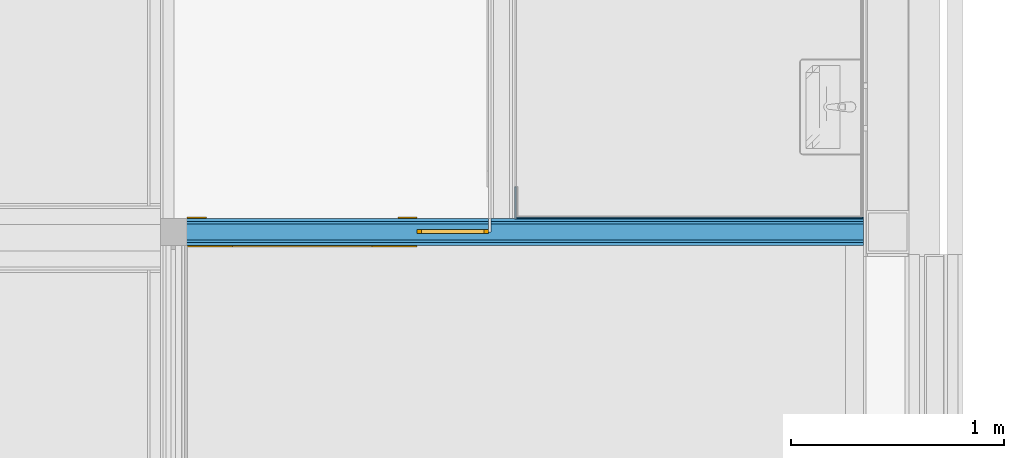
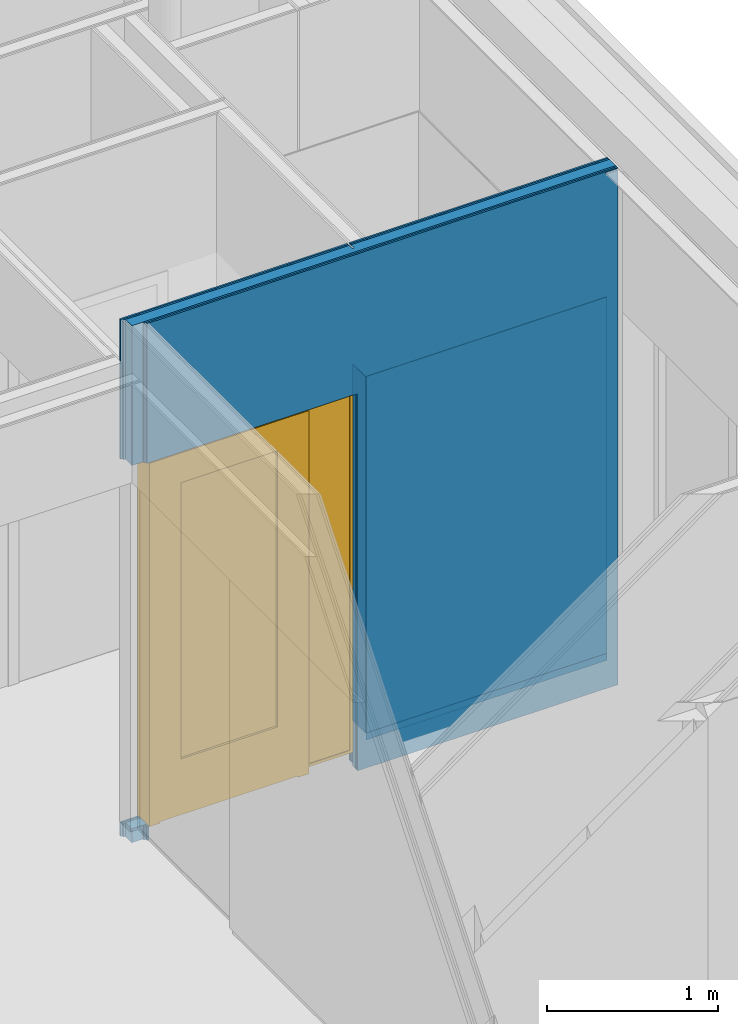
# One storey, part 71 of 165: 8 building element parts, 2 doors, 2 openings, 3 elements without a shape of their own.
"""IFC2X3 building model written with IfcOpenShell, lengths in millimetres."""

from ifc_helpers import new_model, entity, si_unit, converted_unit, derived_unit, money_unit, direction, frame, origin_with_axes, place, context, subcontext, project, spatial, open_shell, faceted_brep, surface_model, material, type_object, element, fill, aggregate, save


model = new_model("IFC2X3")

# Units and contexts
model_context = context("Model", 3, precision=0.01, world=origin_with_axes(), true_north=direction((0.0, 1.0)))
body_context = subcontext(model_context, "Body", "Model", "MODEL_VIEW")
ifc_project = project(units=[si_unit("LENGTHUNIT", "METRE", prefix="MILLI"), si_unit("AREAUNIT", "SQUARE_METRE"), si_unit("VOLUMEUNIT", "CUBIC_METRE"), converted_unit("PLANEANGLEUNIT", "DEGREE", entity("IfcPlaneAngleMeasure", 0.0174532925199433), si_unit("PLANEANGLEUNIT", "RADIAN"), dimensions=[0, 0, 0, 0, 0, 0, 0]), money_unit("EUR"), converted_unit("TIMEUNIT", "Year", entity("IfcTimeMeasure", 31556926.0), si_unit("TIMEUNIT", "SECOND"), dimensions=[0, 0, 1, 0, 0, 0, 0]), si_unit("MASSUNIT", "GRAM", prefix="KILO"), si_unit("THERMODYNAMICTEMPERATUREUNIT", "DEGREE_CELSIUS"), si_unit("LUMINOUSINTENSITYUNIT", "LUMEN"), si_unit("ENERGYUNIT", "JOULE", prefix="MEGA"), derived_unit("THERMALCONDUCTANCEUNIT", [(si_unit("POWERUNIT", "WATT"), 1), (si_unit("LENGTHUNIT", "METRE"), -1), (si_unit("THERMODYNAMICTEMPERATUREUNIT", "KELVIN"), -1)]), derived_unit("SPECIFICHEATCAPACITYUNIT", [(si_unit("ENERGYUNIT", "JOULE"), 1), (si_unit("MASSUNIT", "GRAM", prefix="KILO"), -1), (si_unit("THERMODYNAMICTEMPERATUREUNIT", "KELVIN"), -1)]), derived_unit("MASSDENSITYUNIT", [(si_unit("MASSUNIT", "GRAM", prefix="KILO"), 1), (si_unit("VOLUMEUNIT", "CUBIC_METRE"), -1)])], contexts=[model_context])

# Site, building, storey
site_placement = place(None, origin_with_axes())
site = spatial("IfcSite", under=ifc_project, at=site_placement, Name="Site", CompositionType="ELEMENT")
building_placement = place(site_placement, origin_with_axes())
building = spatial("IfcBuilding", under=site, at=building_placement, Name="Naam gebouw", CompositionType="ELEMENT")
storey_placement = place(building_placement, origin_with_axes())
storey = spatial("IfcBuildingStorey", under=building, at=storey_placement, Name="Begane grond", CompositionType="ELEMENT", Elevation=0.0)

# Door
door_style_1 = type_object("IfcDoorStyle", Name="R1 26", ConstructionType="NOTDEFINED", OperationType="SINGLE_SWING_RIGHT", ParameterTakesPrecedence=False, Sizeable=False)
proxy_1_placement = place(storey_placement, frame((26386.00000000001, 10810.00011055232, -100.0), z_axis=(0.0, 0.0, 1.0), x_axis=(1.0, 0.0, 0.0)))
opening_1_placement = place(proxy_1_placement, frame((1371.999976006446, 0.0, 100.0), z_axis=(0.0, 0.0, 1.0), x_axis=(1.0, 0.0, 0.0)))
door_1_placement = place(opening_1_placement, frame((166.9999760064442, 0.0, 0.0), z_axis=(0.0, 0.0, 1.0), x_axis=(-1.0, 0.0, 0.0)))
door_1 = element("IfcDoor", 1, at=door_1_placement, inside=storey, type_object=door_style_1, Name="_B.14", ObjectType="DOOR", OverallHeight=2600.0, OverallWidth=334.0, context=body_context, shape_type="SurfaceModel", body=[
    faceted_brep([(0.0, -12.49999999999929, 2580.0), (19.99999999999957, -12.49999999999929, 2580.0), (19.99999999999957, 7.500000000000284, 2580.0), (0.0, 7.500000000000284, 2580.0), (19.99999999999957, -12.49999999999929, 20.00000000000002), (0.0, -12.49999999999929, 20.00000000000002), (19.99999999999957, 7.500000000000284, 20.00000000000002), (0.0, 7.500000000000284, 20.00000000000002)], [[[0, 1, 2, 3]], [[4, 1, 0, 5]], [[1, 4, 6, 2]], [[3, 2, 6, 7]], [[5, 0, 3, 7]], [[4, 5, 7, 6]]]),
    faceted_brep([(0.0, -12.49999999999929, 20.00000000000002), (19.99999999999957, -12.49999999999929, 20.00000000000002), (19.99999999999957, 7.500000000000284, 20.00000000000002), (0.0, 7.500000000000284, 20.00000000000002), (313.9999520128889, -12.49999999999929, 20.00000000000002), (0.0, -12.49999999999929, 0.0), (333.9999520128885, -12.49999999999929, 0.0), (333.9999520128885, -12.49999999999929, 20.00000000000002), (313.9999520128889, 7.500000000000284, 20.00000000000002), (333.9999520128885, 7.500000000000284, 20.00000000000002), (333.9999520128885, 7.500000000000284, 0.0), (0.0, 7.500000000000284, 0.0)], [[[0, 1, 2, 3]], [[4, 1, 0, 5, 6, 7]], [[1, 4, 8, 2]], [[3, 2, 8, 9, 10, 11]], [[5, 0, 3, 11]], [[6, 5, 11, 10]], [[7, 6, 10, 9]], [[4, 7, 9, 8]]]),
    faceted_brep([(333.9999520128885, -12.50000000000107, 2580.0), (313.9999520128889, -12.50000000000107, 2580.0), (313.9999520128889, 7.500000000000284, 2580.0), (333.9999520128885, 7.500000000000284, 2580.0), (19.99999999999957, -12.49999999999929, 2580.0), (333.9999520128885, -12.50000000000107, 2600.0), (0.0, -12.49999999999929, 2600.0), (0.0, -12.49999999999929, 2580.0), (19.99999999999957, 7.500000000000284, 2580.0), (0.0, 7.500000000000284, 2580.0), (0.0, 7.500000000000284, 2600.0), (333.9999520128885, 7.500000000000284, 2600.0)], [[[0, 1, 2, 3]], [[4, 1, 0, 5, 6, 7]], [[1, 4, 8, 2]], [[3, 2, 8, 9, 10, 11]], [[5, 0, 3, 11]], [[6, 5, 11, 10]], [[7, 6, 10, 9]], [[4, 7, 9, 8]]]),
    faceted_brep([(313.9999520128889, -12.49999999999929, 20.0), (313.9999520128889, 7.500000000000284, 20.0), (333.9999520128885, 7.500000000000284, 20.0), (333.9999520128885, -12.49999999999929, 20.0), (313.9999520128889, -12.50000000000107, 2580.0), (313.9999520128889, 7.500000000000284, 2580.0), (333.9999520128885, 7.500000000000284, 2580.0), (333.9999520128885, -12.50000000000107, 2580.0)], [[[0, 1, 2, 3]], [[4, 5, 1, 0]], [[1, 5, 6, 2]], [[3, 2, 6, 7]], [[0, 3, 7, 4]], [[7, 6, 5, 4]]]),
    surface_model("IfcShellBasedSurfaceModel", [(19.99999999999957, -7.500000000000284, 20.0), (313.9999520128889, -7.500000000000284, 20.0), (313.9999520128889, -7.500000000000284, 2580.0), (19.99999999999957, -7.500000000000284, 2580.0)], [open_shell([[[0, 1, 2, 3]]])]),
    surface_model("IfcShellBasedSurfaceModel", [(19.99999999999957, 2.499999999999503, 20.0), (19.99999999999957, 2.499999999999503, 2580.0), (313.9999520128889, 2.499999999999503, 2580.0), (313.9999520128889, 2.499999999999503, 20.0)], [open_shell([[[0, 1, 2, 3]]])]),
])

door_style_2 = type_object("IfcDoorStyle", Name="D1 26", ConstructionType="NOTDEFINED", OperationType="SINGLE_SWING_RIGHT", ParameterTakesPrecedence=False, Sizeable=False)
opening_2_placement = place(proxy_1_placement, frame((664.9999999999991, 0.0, 100.0), z_axis=(0.0, 0.0, 1.0), x_axis=(1.0, 0.0, 0.0)))
door_2_placement = place(opening_2_placement, frame((449.9999999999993, 0.0, 0.0), z_axis=(0.0, 0.0, 1.0), x_axis=(-1.0, 0.0, 0.0)))
door_2 = element("IfcDoor", 2, at=door_2_placement, inside=storey, type_object=door_style_2, Name="_01.02", ObjectType="DOOR", OverallHeight=2600.0, OverallWidth=1080.0, context=body_context, shape_type="SurfaceModel", body=[
    faceted_brep([(916.9999999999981, 69.49999999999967, 2510.0), (916.9999999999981, 29.49999999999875, 2510.0), (899.9999999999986, 29.49999999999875, 2510.0), (899.9999999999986, -69.49999999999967, 2510.0), (989.9999999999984, -69.49999999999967, 2510.0), (989.9999999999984, 69.49999999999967, 2510.0), (916.9999999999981, 29.49999999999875, 0.0), (916.9999999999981, 69.49999999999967, 0.0), (899.9999999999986, 29.49999999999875, 0.0), (899.9999999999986, -69.49999999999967, 0.0), (989.9999999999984, -69.49999999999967, 0.0), (989.9999999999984, 69.49999999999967, 0.0)], [[[0, 1, 2, 3, 4, 5]], [[6, 1, 0, 7]], [[8, 2, 1, 6]], [[3, 2, 8, 9]], [[10, 4, 3, 9]], [[11, 5, 4, 10]], [[11, 7, 0, 5]], [[8, 6, 7, 11, 10, 9]]]),
    faceted_brep([(916.9999999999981, 69.49999999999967, 2527.0), (-16.99999999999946, 69.49999999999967, 2527.0), (-16.99999999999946, 69.49999999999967, 2510.0), (-89.99999999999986, 69.49999999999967, 2510.0), (-89.99999999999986, 69.49999999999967, 2600.0), (989.9999999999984, 69.49999999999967, 2600.0), (989.9999999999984, 69.49999999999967, 2510.0), (916.9999999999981, 69.49999999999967, 2510.0), (-16.99999999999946, 29.49999999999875, 2527.0), (916.9999999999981, 29.49999999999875, 2527.0), (-16.99999999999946, 29.49999999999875, 2510.0), (0.0, 29.49999999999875, 2510.0), (0.0, -69.49999999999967, 2510.0), (-89.99999999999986, -69.49999999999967, 2510.0), (-89.99999999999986, -69.49999999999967, 2600.0), (989.9999999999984, -69.49999999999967, 2600.0), (989.9999999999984, -69.49999999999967, 2510.0), (899.9999999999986, 29.49999999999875, 2510.0), (916.9999999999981, 29.49999999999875, 2510.0), (899.9999999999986, -69.49999999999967, 2510.0)], [[[0, 1, 2, 3, 4, 5, 6, 7]], [[8, 1, 0, 9]], [[10, 2, 1, 8]], [[2, 10, 11, 12, 13, 3]], [[4, 3, 13, 14]], [[5, 4, 14, 15]], [[6, 5, 15, 16]], [[17, 18, 7, 6, 16, 19]], [[9, 0, 7, 18]], [[9, 18, 17, 11, 10, 8]], [[12, 11, 17, 19]], [[12, 19, 16, 15, 14, 13]]]),
    faceted_brep([(0.0, 29.50000000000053, 0.0), (0.0, 29.49999999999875, 2510.0), (0.0, -69.49999999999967, 2510.0), (0.0, -69.49999999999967, 0.0), (-16.99999999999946, 29.49999999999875, 2510.0), (-16.99999999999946, 29.50000000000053, 0.0), (-16.99999999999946, 69.49999999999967, 2510.0), (-89.99999999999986, 69.49999999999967, 2510.0), (-89.99999999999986, -69.49999999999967, 2510.0), (-89.99999999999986, -69.49999999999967, 0.0), (-89.99999999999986, 69.49999999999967, 0.0), (-16.99999999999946, 69.49999999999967, 0.0)], [[[0, 1, 2, 3]], [[4, 1, 0, 5]], [[4, 6, 7, 8, 2, 1]], [[3, 2, 8, 9]], [[5, 0, 3, 9, 10, 11]], [[6, 4, 5, 11]], [[6, 11, 10, 7]], [[10, 9, 8, 7]]]),
    faceted_brep([(916.9999999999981, 69.49999999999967, 410.0000000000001), (916.9999999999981, 29.49999999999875, 410.0000000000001), (777.000000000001, 29.49999999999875, 410.0000000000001), (777.000000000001, 69.49999999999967, 410.0000000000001), (916.9999999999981, 69.49999999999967, 2387.0), (916.9999999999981, 29.49999999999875, 2387.0), (777.000000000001, 29.49999999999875, 2387.0), (777.000000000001, 69.49999999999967, 2387.0)], [[[0, 1, 2, 3]], [[4, 5, 1, 0]], [[1, 5, 6, 2]], [[3, 2, 6, 7]], [[0, 3, 7, 4]], [[7, 6, 5, 4]]]),
    faceted_brep([(-16.99999999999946, 69.49999999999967, 410.0000000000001), (-16.99999999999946, 29.50000000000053, 410.0000000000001), (-16.99999999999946, 29.49999999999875, 2387.0), (-16.99999999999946, 69.49999999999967, 2387.0), (122.9999999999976, 69.49999999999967, 410.0000000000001), (122.9999999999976, 29.50000000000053, 410.0000000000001), (122.9999999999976, 29.49999999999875, 2387.0), (122.9999999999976, 69.49999999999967, 2387.0)], [[[0, 1, 2, 3]], [[4, 5, 1, 0]], [[1, 5, 6, 2]], [[3, 2, 6, 7]], [[0, 3, 7, 4]], [[7, 6, 5, 4]]]),
    faceted_brep([(916.9999999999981, 69.49999999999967, 10.0), (916.9999999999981, 29.49999999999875, 9.999999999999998), (-16.99999999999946, 29.50000000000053, 9.999999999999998), (-16.99999999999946, 69.49999999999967, 10.0), (916.9999999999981, 69.49999999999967, 410.0000000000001), (916.9999999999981, 29.49999999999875, 410.0000000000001), (777.000000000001, 29.49999999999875, 410.0000000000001), (122.9999999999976, 29.50000000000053, 410.0000000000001), (-16.99999999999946, 29.50000000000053, 410.0000000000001), (-16.99999999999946, 69.49999999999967, 410.0000000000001), (122.9999999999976, 69.49999999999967, 410.0000000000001), (777.000000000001, 69.49999999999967, 410.0000000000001)], [[[0, 1, 2, 3]], [[4, 5, 1, 0]], [[1, 5, 6, 7, 8, 2]], [[3, 2, 8, 9]], [[0, 3, 9, 10, 11, 4]], [[11, 6, 5, 4]], [[10, 7, 6, 11]], [[9, 8, 7, 10]]]),
    faceted_brep([(916.9999999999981, 69.49999999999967, 2527.0), (916.9999999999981, 29.49999999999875, 2527.0), (916.9999999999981, 29.49999999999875, 2387.0), (916.9999999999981, 69.49999999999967, 2387.0), (-16.99999999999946, 69.49999999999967, 2527.0), (-16.99999999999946, 29.49999999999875, 2527.0), (-16.99999999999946, 29.49999999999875, 2387.0), (122.9999999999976, 29.49999999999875, 2387.0), (777.000000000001, 29.49999999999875, 2387.0), (777.000000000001, 69.49999999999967, 2387.0), (122.9999999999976, 69.49999999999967, 2387.0), (-16.99999999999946, 69.49999999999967, 2387.0)], [[[0, 1, 2, 3]], [[4, 5, 1, 0]], [[1, 5, 6, 7, 8, 2]], [[3, 2, 8, 9]], [[0, 3, 9, 10, 11, 4]], [[11, 6, 5, 4]], [[10, 7, 6, 11]], [[9, 8, 7, 10]]]),
    surface_model("IfcShellBasedSurfaceModel", [(777.000000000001, 55.50000000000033, 410.0000000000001), (122.9999999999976, 55.50000000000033, 410.0000000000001), (122.9999999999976, 55.50000000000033, 2387.0), (777.000000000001, 55.50000000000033, 2387.0)], [open_shell([[[0, 1, 2, 3]]])]),
    surface_model("IfcShellBasedSurfaceModel", [(777.000000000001, 43.49999999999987, 410.0000000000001), (777.000000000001, 43.49999999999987, 2387.0), (122.9999999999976, 43.49999999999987, 2387.0), (122.9999999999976, 43.49999999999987, 410.0000000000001)], [open_shell([[[0, 1, 2, 3]]])]),
])

# Proxy, opening
building_element_proxy_type_1 = type_object("IfcBuildingElementProxyType", Name="22 Metal stud 125 gips 125", PredefinedType="NOTDEFINED")
proxy_1 = element("IfcBuildingElementProxy", 3, at=proxy_1_placement, inside=storey, type_object=building_element_proxy_type_1, Name="_Wand-x")
opening_1 = element("IfcOpeningElement", 4, at=opening_1_placement, cuts=proxy_1, Name="_B.14", context=body_context, shape_type="Brep", body=[
    faceted_brep([(-166.9999760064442, 12.49999999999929, -100.0000000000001), (-166.9999760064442, 12.49999999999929, 2600.0), (-166.9999760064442, 63.49999999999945, 2600.0), (-166.9999760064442, 63.49999999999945, -100.0000000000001), (-166.9999760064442, -63.49999999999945, -100.0000000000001), (-166.9999760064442, -63.49999999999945, 2600.0), (166.9999760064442, 12.49999999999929, 2600.0), (166.9999760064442, 63.49999999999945, 2600.0), (166.9999760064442, -63.49999999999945, 2600.0), (166.9999760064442, 63.49999999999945, -100.0000000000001), (166.9999760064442, 12.49999999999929, -100.0000000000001), (166.9999760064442, -63.49999999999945, -100.0000000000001)], [[[0, 1, 2, 3]], [[1, 0, 4, 5]], [[6, 7, 2, 1, 5, 8]], [[7, 9, 3, 2]], [[0, 3, 9, 10, 11, 4]], [[5, 4, 11, 8]], [[6, 10, 9, 7]], [[10, 6, 8, 11]]]),
])

fill(opening_1, door_1)

# Opening
opening_2 = element("IfcOpeningElement", 5, at=opening_2_placement, cuts=proxy_1, Name="_01.02", context=body_context, shape_type="Brep", body=[
    faceted_brep([(539.9999999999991, 63.49999999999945, 2600.0), (539.9999999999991, 63.49999999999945, -100.0000000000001), (-539.9999999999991, 63.49999999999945, -100.0000000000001), (-539.9999999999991, 63.49999999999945, 2600.0), (539.9999999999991, -63.49999999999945, 2600.0), (539.9999999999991, -63.49999999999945, -100.0000000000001), (-539.9999999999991, -63.49999999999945, -100.0000000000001), (-539.9999999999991, -63.49999999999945, 2600.0)], [[[0, 1, 2, 3]], [[4, 5, 1, 0]], [[5, 6, 2, 1]], [[6, 7, 3, 2]], [[7, 4, 0, 3]], [[6, 5, 4, 7]]]),
])

fill(opening_2, door_2)

# Building element part
ifc_material_1 = material(Name="Gipsplaat")
building_element_part_1_placement = place(proxy_1_placement, origin_with_axes())
building_element_part_1 = element("IfcBuildingElementPart", 6, at=building_element_part_1_placement, material=ifc_material_1, Name="Gipsplaat", context=body_context, shape_type="Brep", body=[
    faceted_brep([(1538.999968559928, 37.49999999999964, 3700.0), (1538.999960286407, 50.00000000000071, 3700.0), (12.49999999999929, 50.00000000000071, 3700.0), (12.49999999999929, 37.49999999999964, 3700.0), (1538.999960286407, 50.00000000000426, 2700.0), (1538.999968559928, 37.5000000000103, 2700.0), (125.0, 49.99999999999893, 2700.0), (12.49999999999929, 50.00000000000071, 2700.0), (12.49999999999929, 37.49999999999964, 2700.0), (125.0, 37.49999999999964, 2700.0)], [[[0, 1, 2, 3]], [[4, 1, 0, 5]], [[1, 4, 6, 7, 2]], [[2, 7, 8, 3]], [[5, 0, 3, 8, 9]], [[4, 5, 9, 6]], [[8, 7, 6, 9]]]),
    faceted_brep([(1550.999960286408, 50.00000000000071, 0.0), (1550.999960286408, 50.00000000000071, 3700.0), (3299.99999999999, 50.00000000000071, 3700.0), (3299.99999999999, 50.00000000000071, 3695.0), (3214.999995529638, 49.99999999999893, 3695.0), (3214.999995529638, 49.99999999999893, 3683.0), (3299.99999999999, 50.00000000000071, 3683.0), (3299.99999999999, 50.00000000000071, 0.0), (1550.999968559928, 37.49999999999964, 3700.0), (1550.999968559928, 37.49999999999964, 0.0), (3299.99999999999, 37.49999999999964, 3700.0), (3299.99999999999, 37.49999999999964, 3695.0), (3214.999995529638, 37.49999999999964, 3695.0), (3214.999995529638, 37.49999999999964, 3683.0), (3299.99999999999, 37.49999999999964, 3683.0), (3299.99999999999, 37.49999999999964, 0.0)], [[[0, 1, 2, 3, 4, 5, 6, 7]], [[8, 1, 0, 9]], [[1, 8, 10, 2]], [[11, 3, 2, 10]], [[4, 3, 11, 12]], [[5, 4, 12, 13]], [[14, 6, 5, 13]], [[6, 14, 15, 7]], [[9, 0, 7, 15]], [[8, 9, 15, 14, 13, 12, 11, 10]]]),
    faceted_brep([(12.49999999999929, 50.00000000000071, 100.0), (125.0, 50.00000000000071, 100.0), (125.0, 50.00000000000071, 0.0), (12.49999999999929, 50.00000000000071, 0.0), (125.0, 37.49999999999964, 100.0), (12.49999999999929, 37.49999999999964, 100.0), (125.0, 37.49999999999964, 0.0), (12.49999999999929, 37.49999999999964, 0.0)], [[[0, 1, 2, 3]], [[4, 1, 0, 5]], [[1, 4, 6, 2]], [[3, 2, 6, 7]], [[5, 0, 3, 7]], [[4, 5, 7, 6]]]),
])

building_element_part_2_placement = place(proxy_1_placement, origin_with_axes())
building_element_part_2 = element("IfcBuildingElementPart", 7, at=building_element_part_2_placement, material=ifc_material_1, Name="Gipsplaat", context=body_context, shape_type="Brep", body=[
    faceted_brep([(1538.999960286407, 50.00000000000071, 3700.0), (1538.999952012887, 62.5, 3700.0), (0.0, 62.5, 3700.0), (0.0, 50.00000000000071, 3700.0), (1538.999952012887, 62.5, 2700.0), (1538.999960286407, 50.00000000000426, 2700.0), (125.0, 62.50000000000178, 2700.0), (0.0, 62.50000000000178, 2700.0), (0.0, 50.00000000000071, 2700.0), (125.0, 49.99999999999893, 2700.0)], [[[0, 1, 2, 3]], [[4, 1, 0, 5]], [[1, 4, 6, 7, 2]], [[2, 7, 8, 3]], [[5, 0, 3, 8, 9]], [[4, 5, 9, 6]], [[8, 7, 6, 9]]]),
    faceted_brep([(1550.999952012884, 62.50000794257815, 0.0), (1550.999952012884, 62.50000794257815, 3700.0), (3299.99999999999, 62.5, 3700.0), (3299.99999999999, 62.5, 3695.0), (3214.999995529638, 62.50000000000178, 3695.0), (3214.999995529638, 62.50000000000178, 3683.0), (3299.99999999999, 62.5, 3683.0), (3299.99999999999, 62.5, 0.0), (1550.999960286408, 50.00000000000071, 3700.0), (1550.999960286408, 50.00000000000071, 0.0), (3299.99999999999, 50.00000000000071, 3700.0), (3299.99999999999, 50.00000000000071, 3695.0), (3214.999995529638, 49.99999999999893, 3695.0), (3214.999995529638, 49.99999999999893, 3683.0), (3299.99999999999, 50.00000000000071, 3683.0), (3299.99999999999, 50.00000000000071, 0.0)], [[[0, 1, 2, 3, 4, 5, 6, 7]], [[8, 1, 0, 9]], [[1, 8, 10, 2]], [[11, 3, 2, 10]], [[4, 3, 11, 12]], [[5, 4, 12, 13]], [[14, 6, 5, 13]], [[6, 14, 15, 7]], [[9, 0, 7, 15]], [[8, 9, 15, 14, 13, 12, 11, 10]]]),
    faceted_brep([(0.0, 62.50000000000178, 100.0), (125.0, 62.50000000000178, 100.0), (125.0, 62.5, 0.0), (0.0, 62.5, 0.0), (125.0, 50.00000000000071, 100.0), (0.0, 50.00000000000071, 100.0), (125.0, 50.00000000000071, 0.0), (0.0, 50.00000000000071, 0.0)], [[[0, 1, 2, 3]], [[4, 1, 0, 5]], [[1, 4, 6, 2]], [[3, 2, 6, 7]], [[5, 0, 3, 7]], [[4, 5, 7, 6]]]),
])

building_element_part_3_placement = place(proxy_1_placement, origin_with_axes())
building_element_part_3 = element("IfcBuildingElementPart", 8, at=building_element_part_3_placement, material=ifc_material_1, Name="Gipsplaat", context=body_context, shape_type="Brep", body=[
    faceted_brep([(100.0000000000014, -37.49999999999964, 100.0), (125.0, -37.49999999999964, 100.0), (125.0, -37.49999999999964, 0.0), (100.0000000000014, -37.49999999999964, 0.0), (125.0, -50.00000000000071, 100.0), (100.0000000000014, -50.00000000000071, 100.0), (125.0, -50.00000000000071, 0.0), (100.0000000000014, -50.00000000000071, 0.0)], [[[0, 1, 2, 3]], [[4, 1, 0, 5]], [[1, 4, 6, 2]], [[3, 2, 6, 7]], [[5, 0, 3, 7]], [[4, 5, 7, 6]]]),
    faceted_brep([(125.0, -49.99999999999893, 2700.0), (125.0, -37.49999999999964, 2700.0), (1538.99995201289, -37.49999999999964, 2700.0), (1538.99995201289, -49.99999999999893, 2700.0), (100.0000000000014, -37.49999999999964, 2700.0), (100.0000000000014, -49.99999999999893, 2700.0), (100.0000000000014, -37.49999999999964, 3700.0), (3299.99999999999, -37.49999999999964, 3700.0), (3299.99999999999, -37.49999999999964, 3695.0), (3214.999995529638, -37.49999999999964, 3695.0), (3214.999995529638, -37.49999999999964, 3683.0), (3299.99999999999, -37.49999999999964, 3683.0), (3299.99999999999, -37.49999999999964, 0.0), (1538.99995201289, -37.49999999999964, 0.0), (1538.99995201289, -50.00000000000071, 0.0), (3299.99999999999, -49.99999999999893, 0.0), (3299.99999999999, -49.99999999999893, 3683.0), (3214.999995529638, -49.99999999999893, 3683.0), (3214.999995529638, -49.99999999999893, 3695.0), (3299.99999999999, -49.99999999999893, 3695.0), (3299.99999999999, -49.99999999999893, 3700.0), (100.0000000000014, -49.99999999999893, 3700.0)], [[[0, 1, 2, 3]], [[4, 1, 0, 5]], [[1, 4, 6, 7, 8, 9, 10, 11, 12, 13, 2]], [[2, 13, 14, 3]], [[5, 0, 3, 14, 15, 16, 17, 18, 19, 20, 21]], [[4, 5, 21, 6]], [[7, 6, 21, 20]], [[8, 7, 20, 19]], [[8, 19, 18, 9]], [[9, 18, 17, 10]], [[11, 10, 17, 16]], [[16, 15, 12, 11]], [[14, 13, 12, 15]]]),
])

building_element_part_4_placement = place(proxy_1_placement, origin_with_axes())
building_element_part_4 = element("IfcBuildingElementPart", 9, at=building_element_part_4_placement, material=ifc_material_1, Name="Gipsplaat", context=body_context, shape_type="Brep", body=[
    faceted_brep([(112.5000000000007, -50.00000000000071, 100.0), (125.0, -50.00000000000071, 100.0), (125.0, -50.00000000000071, 0.0), (112.5000000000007, -50.00000000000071, 0.0), (125.0, -62.49999999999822, 100.0), (112.5000000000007, -62.49999999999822, 100.0), (125.0, -62.5, 0.0), (112.5000000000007, -62.5, 0.0)], [[[0, 1, 2, 3]], [[4, 1, 0, 5]], [[1, 4, 6, 2]], [[3, 2, 6, 7]], [[5, 0, 3, 7]], [[4, 5, 7, 6]]]),
    faceted_brep([(125.0, -62.49999999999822, 2700.0), (125.0, -49.99999999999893, 2700.0), (1538.99995201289, -49.99999999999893, 2700.0), (1538.99995201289, -62.49999999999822, 2700.0), (112.5000000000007, -49.99999999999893, 2700.0), (112.5000000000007, -62.49999999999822, 2700.0), (112.5000000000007, -49.99999999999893, 3700.0), (3299.99999999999, -49.99999999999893, 3700.0), (3299.99999999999, -49.99999999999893, 3695.0), (3214.999995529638, -49.99999999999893, 3695.0), (3214.999995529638, -49.99999999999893, 3683.0), (3299.99999999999, -49.99999999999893, 3683.0), (3299.99999999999, -49.99999999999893, 0.0), (1538.99995201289, -50.00000000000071, 0.0), (1538.99995201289, -62.5, 0.0), (3299.99999999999, -62.5, 0.0), (3299.99999999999, -62.5, 3683.0), (3214.999995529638, -62.49999999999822, 3683.0), (3214.999995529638, -62.49999999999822, 3695.0), (3299.99999999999, -62.5, 3695.0), (3299.99999999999, -62.5, 3700.0), (112.5000000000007, -62.5, 3700.0)], [[[0, 1, 2, 3]], [[4, 1, 0, 5]], [[1, 4, 6, 7, 8, 9, 10, 11, 12, 13, 2]], [[2, 13, 14, 3]], [[5, 0, 3, 14, 15, 16, 17, 18, 19, 20, 21]], [[4, 5, 21, 6]], [[7, 6, 21, 20]], [[8, 7, 20, 19]], [[8, 19, 18, 9]], [[9, 18, 17, 10]], [[11, 10, 17, 16]], [[16, 15, 12, 11]], [[14, 13, 12, 15]]]),
])

ifc_material_2 = material(Name="ALG - LICHTE SCHEIDINGSWAND")
building_element_part_5_placement = place(proxy_1_placement, origin_with_axes())
building_element_part_5 = element("IfcBuildingElementPart", 10, at=building_element_part_5_placement, material=ifc_material_2, Name="ALG - LICHTE SCHEIDINGSWAND", context=body_context, shape_type="Brep", body=[
    faceted_brep([(1550.999968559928, 37.49999999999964, 0.0), (1550.999968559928, 37.49999999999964, 3700.0), (3299.99999999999, 37.49999999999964, 3700.0), (3299.99999999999, 37.49999999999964, 3695.0), (3214.999995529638, 37.49999999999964, 3695.0), (3214.999995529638, 37.49999999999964, 3683.0), (3299.99999999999, 37.49999999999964, 3683.0), (3299.99999999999, 37.49999999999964, 0.0), (1550.999993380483, 7.280696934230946e-06, 3700.0), (1550.999993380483, 7.280696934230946e-06, 0.0), (1538.999993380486, -6.618812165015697e-07, 3700.0), (1538.999968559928, 37.49999999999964, 3700.0), (24.99999999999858, 37.49999999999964, 3700.0), (24.99999999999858, -37.49999999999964, 3700.0), (3299.99999999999, -37.49999999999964, 3700.0), (3299.99999999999, -37.49999999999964, 3695.0), (3214.999995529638, -37.49999999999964, 3695.0), (3214.999995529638, -37.49999999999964, 3683.0), (3299.99999999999, -37.49999999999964, 3683.0), (3299.99999999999, -37.49999999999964, 0.0), (1538.99995201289, -37.49999999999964, 0.0), (1538.999993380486, -6.618812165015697e-07, 0.0), (1538.999993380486, -6.618812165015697e-07, 2700.0), (1538.999968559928, 37.5000000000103, 2700.0), (125.0, 37.49999999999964, 2700.0), (24.99999999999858, 37.49999999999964, 2700.0), (24.99999999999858, -37.49999999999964, 2700.0), (125.0, -37.49999999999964, 2700.0), (1538.99995201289, -37.49999999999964, 2700.0)], [[[0, 1, 2, 3, 4, 5, 6, 7]], [[8, 1, 0, 9]], [[10, 11, 12, 13, 14, 2, 1, 8]], [[3, 2, 14, 15]], [[3, 15, 16, 4]], [[4, 16, 17, 5]], [[6, 5, 17, 18]], [[18, 19, 7, 6]], [[9, 0, 7, 19, 20, 21]], [[10, 8, 9, 21, 22]], [[23, 11, 10, 22]], [[11, 23, 24, 25, 12]], [[12, 25, 26, 13]], [[13, 26, 27, 28, 20, 19, 18, 17, 16, 15, 14]], [[22, 21, 20, 28]], [[23, 22, 28, 27, 24]], [[26, 25, 24, 27]]]),
    faceted_brep([(24.99999999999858, 37.49999999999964, 100.0), (125.0, 37.49999999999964, 100.0), (125.0, 37.49999999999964, 0.0), (24.99999999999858, 37.49999999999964, 0.0), (125.0, -37.49999999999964, 100.0), (24.99999999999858, -37.49999999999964, 100.0), (125.0, -37.49999999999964, 0.0), (24.99999999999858, -37.49999999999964, 0.0)], [[[0, 1, 2, 3]], [[4, 1, 0, 5]], [[1, 4, 6, 2]], [[3, 2, 6, 7]], [[5, 0, 3, 7]], [[4, 5, 7, 6]]]),
])

aggregate(proxy_1, [building_element_part_1, building_element_part_2, building_element_part_3, building_element_part_4, building_element_part_5])

# Proxy, building element part
building_element_proxy_type_2 = type_object("IfcBuildingElementProxyType", Name="42 Tegelwerk 2600+ 12 x 2600", PredefinedType="NOTDEFINED")
proxy_2_placement = place(storey_placement, frame((28069.99985273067, 11022.50012312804, 0.0), z_axis=(0.0, 0.0, 1.0), x_axis=(6.618815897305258e-07, -0.999999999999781, 0.0)))
proxy_2 = element("IfcBuildingElementProxy", 11, at=proxy_2_placement, inside=storey, type_object=building_element_proxy_type_2, Name="_Wand-x")
ifc_material_3 = material(Name="21 STO lijmlaag")
building_element_part_6_placement = place(proxy_2_placement, origin_with_axes())
building_element_part_6 = element("IfcBuildingElementPart", 12, at=building_element_part_6_placement, material=ifc_material_3, Name="21 STO lijmlaag", context=body_context, shape_type="Brep", body=[
    faceted_brep([(150.0000067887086, -19.99999552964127, 2600.0), (150.0000114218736, -13.00000447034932, 2600.0), (0.0, -13.00000447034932, 2600.0), (0.0, -19.99999552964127, 2600.0), (150.0000114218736, -13.00000447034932, 50.00000596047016), (150.0000067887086, -19.99999552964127, 50.00000596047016), (150.0000100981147, -14.99999850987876, 50.00000596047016), (0.0, -13.00000447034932, 50.00000000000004), (0.0, -14.99999850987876, 50.00000596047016), (0.0, -19.99999552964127, 50.00000000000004)], [[[0, 1, 2, 3]], [[4, 1, 0, 5, 6]], [[1, 4, 7, 2]], [[2, 7, 8, 9, 3]], [[5, 0, 3, 9]], [[6, 5, 9, 8]], [[4, 6, 8, 7]]]),
])
aggregate(proxy_2, [building_element_part_6])

# Proxy, building element parts
proxy_3_placement = place(storey_placement, frame((28069.99993877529, 10892.50011055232, 0.0), z_axis=(0.0, 0.0, 1.0), x_axis=(1.0, 0.0, 0.0)))
proxy_3 = element("IfcBuildingElementProxy", 13, at=proxy_3_placement, inside=storey, type_object=building_element_proxy_type_2, Name="_Wand-x")
ifc_material_4 = material(Name="48 vloeivloer Bolidt")
building_element_part_7_placement = place(proxy_3_placement, origin_with_axes())
building_element_part_7 = element("IfcBuildingElementPart", 14, at=building_element_part_7_placement, material=ifc_material_4, Name="48 vloeivloer Bolidt", context=body_context, shape_type="Brep", body=[
    faceted_brep([(-14.99998858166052, -14.99999850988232, 0.0), (-14.99998858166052, -14.99999850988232, 50.00000596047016), (1616.000068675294, -14.99999850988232, 50.00000596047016), (1616.000068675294, -14.99999850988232, 0.0), (-14.99998527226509, -19.99998360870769, 50.00000596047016), (-14.99998527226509, -19.99998360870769, 0.0), (1616.000068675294, -19.99998360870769, 50.00000596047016), (1616.000068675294, -19.99998360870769, 0.0)], [[[0, 1, 2, 3]], [[4, 1, 0, 5]], [[1, 4, 6, 2]], [[7, 3, 2, 6]], [[5, 0, 3, 7]], [[4, 5, 7, 6]]]),
])
building_element_part_8_placement = place(proxy_3_placement, origin_with_axes())
building_element_part_8 = element("IfcBuildingElementPart", 15, at=building_element_part_8_placement, material=ifc_material_3, Name="21 STO lijmlaag", context=body_context, shape_type="Brep", body=[
    faceted_brep([(-12.99999586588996, -13.00000447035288, 50.00000000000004), (-12.99999586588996, -13.00000447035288, 2600.0), (1616.000068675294, -13.00000447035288, 2600.0), (1616.000068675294, -13.00000447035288, 50.00000596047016), (-12.99999123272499, -19.9999955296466, 2600.0), (-12.99999454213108, -14.99999850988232, 50.00000000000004), (-12.99999123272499, -19.9999955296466, 50.00000000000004), (1616.000068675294, -19.9999955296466, 2600.0), (1616.000068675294, -14.99999850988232, 50.00000596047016), (1616.000068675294, -19.9999955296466, 50.00000596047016)], [[[0, 1, 2, 3]], [[4, 1, 0, 5, 6]], [[1, 4, 7, 2]], [[8, 3, 2, 7, 9]], [[5, 0, 3, 8]], [[6, 5, 8, 9]], [[4, 6, 9, 7]]]),
])
aggregate(proxy_3, [building_element_part_7, building_element_part_8])

save(model, "model.ifc")
